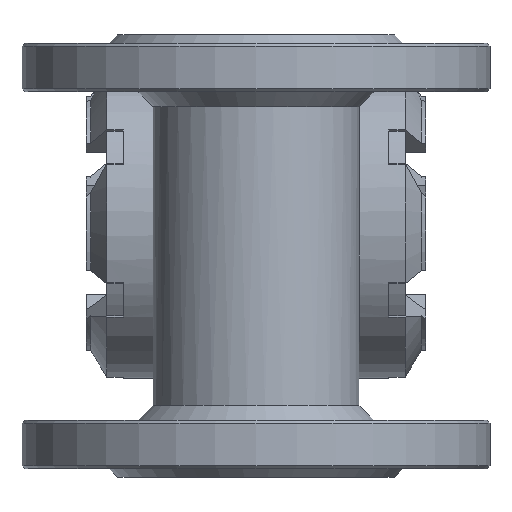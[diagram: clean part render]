
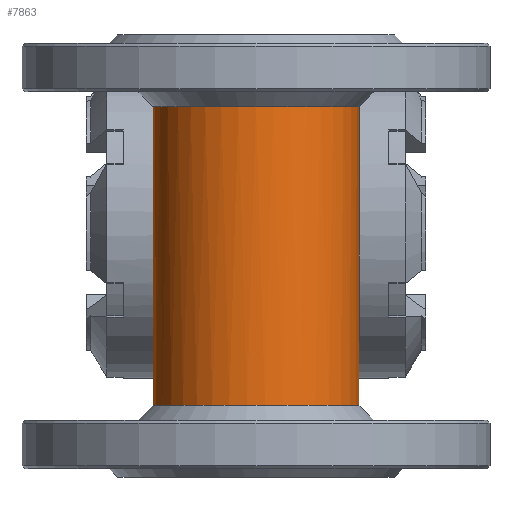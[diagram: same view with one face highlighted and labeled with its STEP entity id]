
A CAD part, front view. The second image highlights one B-rep face of the part: STEP entity #7863.
In plain terms, the highlighted cylindrical face has radius 35 mm (diameter 70 mm), a full revolution.
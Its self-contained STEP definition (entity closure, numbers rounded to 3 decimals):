
#747=CIRCLE('',#28241,35.);
#748=CIRCLE('',#28242,35.);
#3211=LINE('',#46285,#6060);
#3212=LINE('',#46294,#6061);
#6060=VECTOR('',#33255,1.);
#6061=VECTOR('',#33256,1.);
#6228=CYLINDRICAL_SURFACE('',#28243,35.);
#6454=FACE_BOUND('',#11482,.T.);
#6455=FACE_BOUND('',#11483,.T.);
#6456=FACE_BOUND('',#11484,.T.);
#7863=ADVANCED_FACE('',(#6454,#6455,#6456),#6228,.T.);
#11482=EDGE_LOOP('',(#18746));
#11483=EDGE_LOOP('',(#18747));
#11484=EDGE_LOOP('',(#18748,#18749,#18750,#18751));
#18746=ORIENTED_EDGE('',*,*,#25391,.T.);
#18747=ORIENTED_EDGE('',*,*,#25392,.T.);
#18748=ORIENTED_EDGE('',*,*,#25393,.T.);
#18749=ORIENTED_EDGE('',*,*,#25394,.T.);
#18750=ORIENTED_EDGE('',*,*,#25395,.T.);
#18751=ORIENTED_EDGE('',*,*,#25396,.T.);
#21654=VERTEX_POINT('',#46274);
#21655=VERTEX_POINT('',#46276);
#21656=VERTEX_POINT('',#46283);
#21657=VERTEX_POINT('',#46284);
#21658=VERTEX_POINT('',#46286);
#21659=VERTEX_POINT('',#46293);
#25391=EDGE_CURVE('',#21654,#21654,#747,.T.);
#25392=EDGE_CURVE('',#21655,#21655,#748,.T.);
#25393=EDGE_CURVE('',#21656,#21657,#27262,.T.);
#25394=EDGE_CURVE('',#21657,#21658,#3211,.T.);
#25395=EDGE_CURVE('',#21658,#21659,#27263,.T.);
#25396=EDGE_CURVE('',#21659,#21656,#3212,.T.);
#27262=B_SPLINE_CURVE_WITH_KNOTS('',3,(#46277,#46278,#46279,#46280,#46281,
#46282),.UNSPECIFIED.,.F.,.F.,(4,2,4),(0.,0.5,1.),.UNSPECIFIED.);
#27263=B_SPLINE_CURVE_WITH_KNOTS('',3,(#46287,#46288,#46289,#46290,#46291,
#46292),.UNSPECIFIED.,.F.,.F.,(4,2,4),(0.,0.5,1.),.UNSPECIFIED.);
#28241=AXIS2_PLACEMENT_3D('',#46273,#33251,#33252);
#28242=AXIS2_PLACEMENT_3D('',#46275,#33253,#33254);
#28243=AXIS2_PLACEMENT_3D('',#46295,#33257,#33258);
#33251=DIRECTION('',(0.,0.,-1.));
#33252=DIRECTION('',(0.,-1.,0.));
#33253=DIRECTION('',(0.,0.,1.));
#33254=DIRECTION('',(0.707,0.707,0.));
#33255=DIRECTION('',(0.,0.,-1.));
#33256=DIRECTION('',(0.,0.,1.));
#33257=DIRECTION('',(0.,0.,-1.));
#33258=DIRECTION('',(0.707,0.707,0.));
#46273=CARTESIAN_POINT('',(0.,-27.,39.6));
#46274=CARTESIAN_POINT('',(0.,-62.,39.6));
#46275=CARTESIAN_POINT('',(0.,-27.,-61.6));
#46276=CARTESIAN_POINT('',(24.749,-2.251,-61.6));
#46277=CARTESIAN_POINT('',(8.307,7.,8.76));
#46278=CARTESIAN_POINT('',(6.055,7.55,10.784));
#46279=CARTESIAN_POINT('',(3.033,8.,11.922));
#46280=CARTESIAN_POINT('',(-3.032,8.,11.923));
#46281=CARTESIAN_POINT('',(-6.056,7.55,10.784));
#46282=CARTESIAN_POINT('',(-8.307,7.,8.76));
#46283=CARTESIAN_POINT('',(8.307,7.,8.76));
#46284=CARTESIAN_POINT('',(-8.307,7.,8.76));
#46285=CARTESIAN_POINT('',(-8.307,7.,34.6));
#46286=CARTESIAN_POINT('',(-8.307,7.,-8.76));
#46287=CARTESIAN_POINT('',(-8.307,7.,-8.76));
#46288=CARTESIAN_POINT('',(-6.055,7.55,-10.784));
#46289=CARTESIAN_POINT('',(-3.033,8.,-11.922));
#46290=CARTESIAN_POINT('',(3.032,8.,-11.923));
#46291=CARTESIAN_POINT('',(6.056,7.55,-10.784));
#46292=CARTESIAN_POINT('',(8.307,7.,-8.76));
#46293=CARTESIAN_POINT('',(8.307,7.,-8.76));
#46294=CARTESIAN_POINT('',(8.307,7.,34.6));
#46295=CARTESIAN_POINT('',(0.,-27.,34.6));
